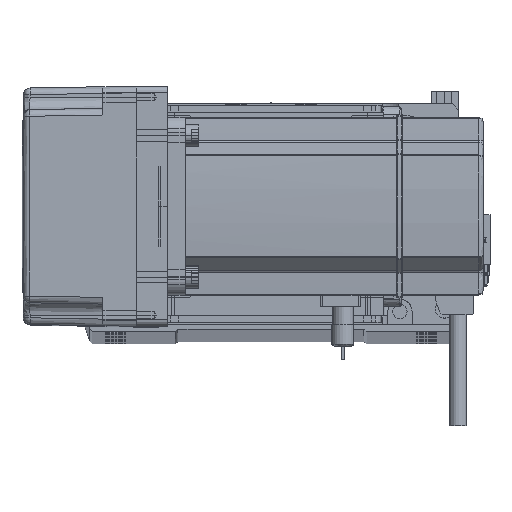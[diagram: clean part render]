
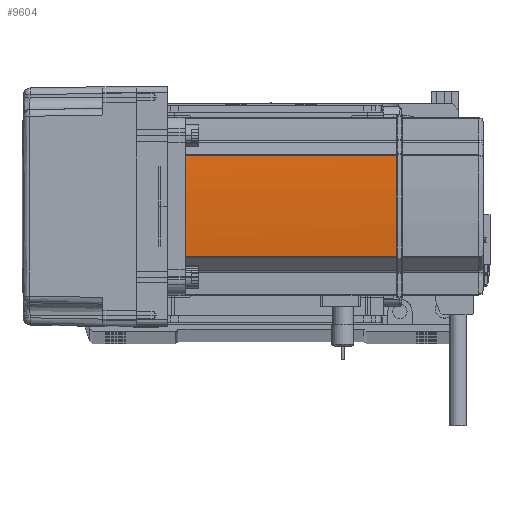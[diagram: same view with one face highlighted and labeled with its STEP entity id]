
A CAD part, top view. The second image highlights one B-rep face of the part: STEP entity #9604.
In plain terms, the highlighted cylindrical face has radius 270 mm (diameter 540 mm), a partial arc.
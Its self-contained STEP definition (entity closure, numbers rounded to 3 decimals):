
#340 = VERTEX_POINT ( 'NONE', #60412 ) ;
#3936 = ORIENTED_EDGE ( 'NONE', *, *, #35175, .T. ) ;
#5188 = CIRCLE ( 'NONE', #64468, 270. ) ;
#9604 = ADVANCED_FACE ( 'NONE', ( #58761 ), #64420, .T. ) ;
#11841 = LINE ( 'NONE', #32562, #32807 ) ;
#12034 = CARTESIAN_POINT ( 'NONE',  ( 40., -0.042, 134. ) ) ;
#12551 = DIRECTION ( 'NONE',  ( 0., 0., -1. ) ) ;
#13608 = VERTEX_POINT ( 'NONE', #30689 ) ;
#14024 = CARTESIAN_POINT ( 'NONE',  ( -230., 0., 134. ) ) ;
#15531 = EDGE_CURVE ( 'NONE', #45260, #53445, #5188, .T. ) ;
#16085 = EDGE_CURVE ( 'NONE', #18989, #53445, #35898, .T. ) ;
#17205 = DIRECTION ( 'NONE',  ( 0., 0., 1. ) ) ;
#17410 = CARTESIAN_POINT ( 'NONE',  ( 40., 0.042, 134. ) ) ;
#18989 = VERTEX_POINT ( 'NONE', #40814 ) ;
#20500 = EDGE_CURVE ( 'NONE', #13608, #25145, #48079, .T. ) ;
#20840 = CARTESIAN_POINT ( 'NONE',  ( -230., 0., 58. ) ) ;
#22120 = EDGE_CURVE ( 'NONE', #340, #25145, #52688, .T. ) ;
#22280 = CARTESIAN_POINT ( 'NONE',  ( 39.042, -22.724, 39. ) ) ;
#25145 = VERTEX_POINT ( 'NONE', #22280 ) ;
#27632 = DIRECTION ( 'NONE',  ( -1., 0., 0. ) ) ;
#27775 = CARTESIAN_POINT ( 'NONE',  ( 40., 0.127, 134. ) ) ;
#28893 = AXIS2_PLACEMENT_3D ( 'NONE', #20840, #62200, #41341 ) ;
#30478 = DIRECTION ( 'NONE',  ( 0., 0., -1. ) ) ;
#30689 = CARTESIAN_POINT ( 'NONE',  ( 39.042, 22.724, 39. ) ) ;
#32562 = CARTESIAN_POINT ( 'NONE',  ( 39.042, 22.724, 58. ) ) ;
#32807 = VECTOR ( 'NONE', #17205, 1000. ) ;
#33089 = CARTESIAN_POINT ( 'NONE',  ( -230., 0., 134. ) ) ;
#35047 = ORIENTED_EDGE ( 'NONE', *, *, #22120, .T. ) ;
#35175 = EDGE_CURVE ( 'NONE', #18989, #340, #38684, .T. ) ;
#35745 = AXIS2_PLACEMENT_3D ( 'NONE', #14024, #30478, #66436 ) ;
#35898 = B_SPLINE_CURVE_WITH_KNOTS ( 'NONE', 3,
 ( #48270, #12034, #17410, #27775 ),
 .UNSPECIFIED., .F., .F.,
 ( 4, 4 ),
 ( 0., 1. ),
 .UNSPECIFIED. ) ;
#38684 = CIRCLE ( 'NONE', #35745, 270. ) ;
#38741 = CARTESIAN_POINT ( 'NONE',  ( 39.042, -22.724, 58. ) ) ;
#40194 = ORIENTED_EDGE ( 'NONE', *, *, #15531, .T. ) ;
#40814 = CARTESIAN_POINT ( 'NONE',  ( 40., -0.127, 134. ) ) ;
#41341 = DIRECTION ( 'NONE',  ( -1., 0., 0. ) ) ;
#43924 = DIRECTION ( 'NONE',  ( 0., 0., -1. ) ) ;
#44591 = CARTESIAN_POINT ( 'NONE',  ( 39.042, 22.724, 134. ) ) ;
#45181 = ORIENTED_EDGE ( 'NONE', *, *, #20500, .F. ) ;
#45260 = VERTEX_POINT ( 'NONE', #44591 ) ;
#45677 = ORIENTED_EDGE ( 'NONE', *, *, #16085, .F. ) ;
#45919 = CARTESIAN_POINT ( 'NONE',  ( -230., 0., 39. ) ) ;
#47861 = ORIENTED_EDGE ( 'NONE', *, *, #61785, .T. ) ;
#48079 = CIRCLE ( 'NONE', #63370, 270. ) ;
#48270 = CARTESIAN_POINT ( 'NONE',  ( 40., -0.127, 134. ) ) ;
#50615 = DIRECTION ( 'NONE',  ( 0., 0., -1. ) ) ;
#52688 = LINE ( 'NONE', #38741, #54282 ) ;
#53445 = VERTEX_POINT ( 'NONE', #62235 ) ;
#54282 = VECTOR ( 'NONE', #43924, 1000. ) ;
#58761 = FACE_OUTER_BOUND ( 'NONE', #64896, .T. ) ;
#60412 = CARTESIAN_POINT ( 'NONE',  ( 39.042, -22.724, 134. ) ) ;
#61785 = EDGE_CURVE ( 'NONE', #13608, #45260, #11841, .T. ) ;
#62200 = DIRECTION ( 'NONE',  ( 0., 0., -1. ) ) ;
#62235 = CARTESIAN_POINT ( 'NONE',  ( 40., 0.127, 134. ) ) ;
#63370 = AXIS2_PLACEMENT_3D ( 'NONE', #45919, #50615, #66541 ) ;
#64420 = CYLINDRICAL_SURFACE ( 'NONE', #28893, 270. ) ;
#64468 = AXIS2_PLACEMENT_3D ( 'NONE', #33089, #12551, #27632 ) ;
#64896 = EDGE_LOOP ( 'NONE', ( #35047, #45181, #47861, #40194, #45677, #3936 ) ) ;
#66436 = DIRECTION ( 'NONE',  ( -1., 0., 0. ) ) ;
#66541 = DIRECTION ( 'NONE',  ( -1., 0., 0. ) ) ;
